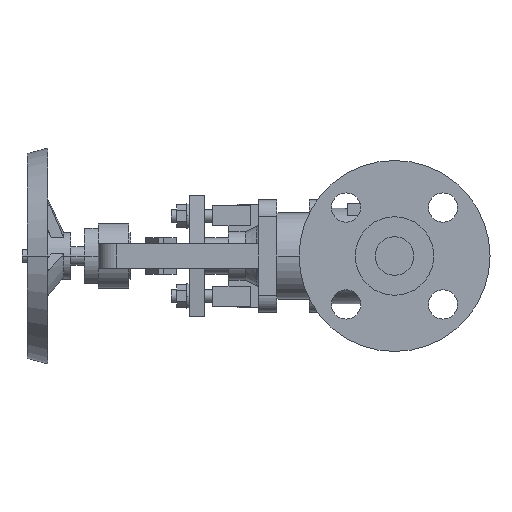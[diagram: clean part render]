
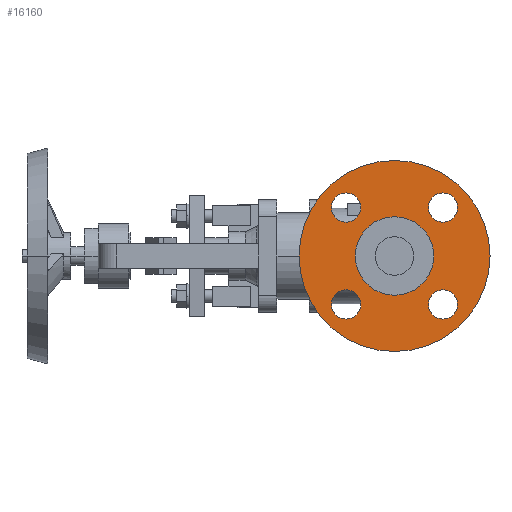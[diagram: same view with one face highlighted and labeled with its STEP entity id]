
A CAD part, left-side view. The second image highlights one B-rep face of the part: STEP entity #16160.
In plain terms, the highlighted planar face has unit normal (-1, 0, 0).
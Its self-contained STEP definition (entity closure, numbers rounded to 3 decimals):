
#3790=CARTESIAN_POINT('',(1.6,0.,62.));
#3800=VERTEX_POINT('',#3790);
#3960=CARTESIAN_POINT('',(1.6,0.,-62.));
#3970=VERTEX_POINT('',#3960);
#4000=CARTESIAN_POINT('',(1.6,0.,0.));
#4010=DIRECTION('',(1.,0.,0.));
#4020=DIRECTION('',(0.,0.,-1.));
#4030=AXIS2_PLACEMENT_3D('',#4000,#4010,#4020);
#4040=CIRCLE('',#4030,62.);
#4050=EDGE_CURVE('',#3800,#3970,#4040,.T.);
#4280=CARTESIAN_POINT('',(1.6,31.466,
-40.966));
#4290=VERTEX_POINT('',#4280);
#4450=CARTESIAN_POINT('',(1.6,31.466,
-21.966));
#4460=VERTEX_POINT('',#4450);
#4490=CARTESIAN_POINT('',(1.6,31.466,
-31.466));
#4500=DIRECTION('',(-1.,0.,0.));
#4510=DIRECTION('',(0.,0.,-1.));
#4520=AXIS2_PLACEMENT_3D('',#4490,#4500,#4510);
#4530=CIRCLE('',#4520,9.5);
#4540=EDGE_CURVE('',#4290,#4460,#4530,.T.);
#4770=CARTESIAN_POINT('',(1.6,-31.466,
-40.966));
#4780=VERTEX_POINT('',#4770);
#4810=CARTESIAN_POINT('',(1.6,-31.466,
-31.466));
#4820=DIRECTION('',(-1.,0.,0.));
#4830=DIRECTION('',(0.,0.,-1.));
#4840=AXIS2_PLACEMENT_3D('',#4810,#4820,#4830);
#4850=CIRCLE('',#4840,9.5);
#4860=CARTESIAN_POINT('',(1.6,-31.466,
-21.966));
#4870=VERTEX_POINT('',#4860);
#4880=EDGE_CURVE('',#4870,#4780,#4850,.T.);
#5260=CARTESIAN_POINT('',(1.6,31.466,
21.966));
#5270=VERTEX_POINT('',#5260);
#5430=CARTESIAN_POINT('',(1.6,31.466,
40.966));
#5440=VERTEX_POINT('',#5430);
#5470=CARTESIAN_POINT('',(1.6,31.466,
31.466));
#5480=DIRECTION('',(-1.,0.,0.));
#5490=DIRECTION('',(0.,0.,-1.));
#5500=AXIS2_PLACEMENT_3D('',#5470,#5480,#5490);
#5510=CIRCLE('',#5500,9.5);
#5520=EDGE_CURVE('',#5270,#5440,#5510,.T.);
#5750=CARTESIAN_POINT('',(1.6,-31.466,
40.966));
#5760=VERTEX_POINT('',#5750);
#5790=CARTESIAN_POINT('',(1.6,-31.466,
31.466));
#5800=DIRECTION('',(-1.,0.,0.));
#5810=DIRECTION('',(0.,0.,-1.));
#5820=AXIS2_PLACEMENT_3D('',#5790,#5800,#5810);
#5830=CIRCLE('',#5820,9.5);
#5840=CARTESIAN_POINT('',(1.6,-31.466,
21.966));
#5850=VERTEX_POINT('',#5840);
#5860=EDGE_CURVE('',#5850,#5760,#5830,.T.);
#6240=CARTESIAN_POINT('',(1.6,25.5,0.));
#6250=VERTEX_POINT('',#6240);
#6410=CARTESIAN_POINT('',(1.6,-25.5,0.));
#6420=VERTEX_POINT('',#6410);
#6450=CARTESIAN_POINT('',(1.6,0.,0.));
#6460=DIRECTION('',(-1.,0.,0.));
#6470=DIRECTION('',(0.,1.,0.));
#6480=AXIS2_PLACEMENT_3D('',#6450,#6460,#6470);
#6490=CIRCLE('',#6480,25.5);
#6500=EDGE_CURVE('',#6250,#6420,#6490,.T.);
#15810=CARTESIAN_POINT('',(1.6,43.75,0.)
);
#15820=DIRECTION('',(1.,0.,0.));
#15830=DIRECTION('',(0.,-1.,0.));
#15840=AXIS2_PLACEMENT_3D('',#15810,#15820,#15830);
#15850=PLANE('',#15840);
#15860=EDGE_CURVE('',#6420,#6250,#6490,.T.);
#15870=ORIENTED_EDGE('',*,*,#15860,.F.);
#15880=ORIENTED_EDGE('',*,*,#6500,.F.);
#15890=EDGE_LOOP('',(#15880,#15870));
#15900=FACE_BOUND('',#15890,.T.);
#15910=EDGE_CURVE('',#3970,#3800,#4040,.T.);
#15920=ORIENTED_EDGE('',*,*,#15910,.F.);
#15930=ORIENTED_EDGE('',*,*,#4050,.F.);
#15940=EDGE_LOOP('',(#15930,#15920));
#15950=FACE_OUTER_BOUND('',#15940,.T.);
#15960=EDGE_CURVE('',#4460,#4290,#4530,.T.);
#15970=ORIENTED_EDGE('',*,*,#15960,.F.);
#15980=ORIENTED_EDGE('',*,*,#4540,.F.);
#15990=EDGE_LOOP('',(#15980,#15970));
#16000=FACE_BOUND('',#15990,.T.);
#16010=EDGE_CURVE('',#4780,#4870,#4850,.T.);
#16020=ORIENTED_EDGE('',*,*,#16010,.F.);
#16030=ORIENTED_EDGE('',*,*,#4880,.F.);
#16040=EDGE_LOOP('',(#16030,#16020));
#16050=FACE_BOUND('',#16040,.T.);
#16060=EDGE_CURVE('',#5440,#5270,#5510,.T.);
#16070=ORIENTED_EDGE('',*,*,#16060,.F.);
#16080=ORIENTED_EDGE('',*,*,#5520,.F.);
#16090=EDGE_LOOP('',(#16080,#16070));
#16100=FACE_BOUND('',#16090,.T.);
#16110=ORIENTED_EDGE('',*,*,#5860,.F.);
#16120=EDGE_CURVE('',#5760,#5850,#5830,.T.);
#16130=ORIENTED_EDGE('',*,*,#16120,.F.);
#16140=EDGE_LOOP('',(#16130,#16110));
#16150=FACE_BOUND('',#16140,.T.);
#16160=ADVANCED_FACE('',(#15900,#15950,#16000,#16050,#16100,#16150),
#15850,.F.);
